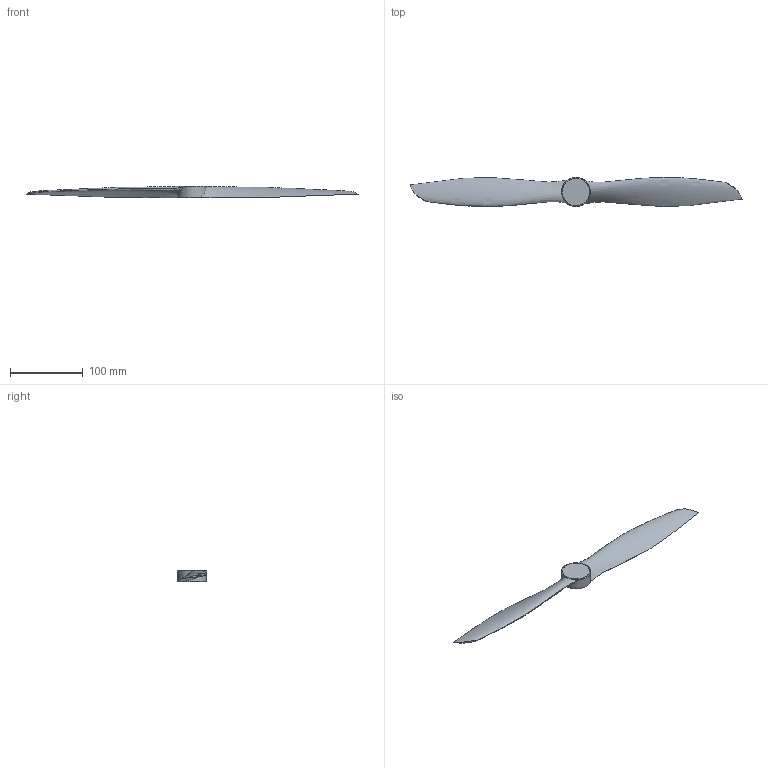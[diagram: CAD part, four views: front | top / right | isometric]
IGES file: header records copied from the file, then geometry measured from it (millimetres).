
Global section: file name: C:\NX6_files\v3_18x8.igs; native system: NX V6.0; preprocessor: SIEMENS UGS NX 6.0; date: 20101229.182831; units: millimetre
Bounding box: 457.2 x 40.22 x 16 mm (x, y, z)
Surface area: 33554.6 mm2 (no closed solid volume)
Topology: 0 solids, 0 shells, 16 faces, 706 edges, 1246 vertices
Faces by surface type: bspline 16
